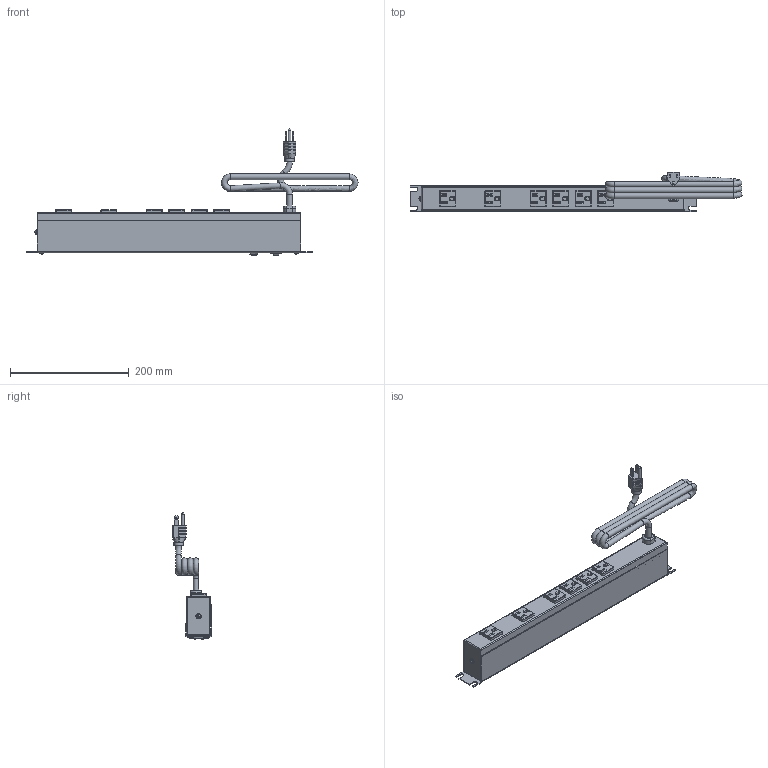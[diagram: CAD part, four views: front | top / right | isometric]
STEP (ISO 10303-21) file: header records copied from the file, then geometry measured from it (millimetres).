
FILE_DESCRIPTION((''),'2;1');
FILE_NAME('E:\Dutton\Manufacturing\drawings\Updated 2009\POWER BARS\1583 Series\STEP''s\1583H6A1BK.stp','2010-01-07T08:37:09',('tfoster'),(''),'Autodesk Inventor 2010','Autodesk Inventor 2010','');
FILE_SCHEMA(('AUTOMOTIVE_DESIGN { 1 0 10303 214 1 1 1 1 }'));
Products named in the file (12): 1583H6A1BK; 1583 Front plate; 1583H6 Back Plate; #6 - 0.375 Type A screw; Reset Switch; Power Switch Assembly; Power Switch; Power Switch pt; Cored 2; Receptacle; toothwasher; round head 1-way 8-32 x 0.5 screw
Assembly tree (19 placements, depth 3):
  1583H6A1BK
    1583 Front plate
    1583H6 Back Plate
    #6 - 0.375 Type A screw  x4
    Reset Switch
    Power Switch Assembly
      Power Switch
      Power Switch pt
    Cored 2
    Receptacle  x6
    toothwasher
    round head 1-way 8-32 x 0.5 screw
Bounding box: 560.01 x 66.07 x 213.79 mm (x, y, z)
Volume: 350172.1 mm3; surface area: 300727.6 mm2
Topology: 18 solids, 18 shells, 925 faces, 2695 edges, 1809 vertices
Faces by surface type: plane 599, cylinder 171, bspline 87, sphere 30, cone 23, torus 15
Full cylindrical faces by diameter (mm): 1 x2, 1.803 x3, 1.905 x2, 2.286 x1, 2.997 x4, 3 x2, 4.3 x1, 4.775 x1, 4.801 x1, 5.563 x4, 7.849 x1, 9.5 x5, 11 x1, 15.621 x1
Entity records: 22921 total; most frequent: CARTESIAN_POINT 7875, ORIENTED_EDGE 3246, DIRECTION 2720, EDGE_CURVE 1623, VERTEX_POINT 1140, VECTOR 1038, LINE 1038, AXIS2_PLACEMENT_3D 841
